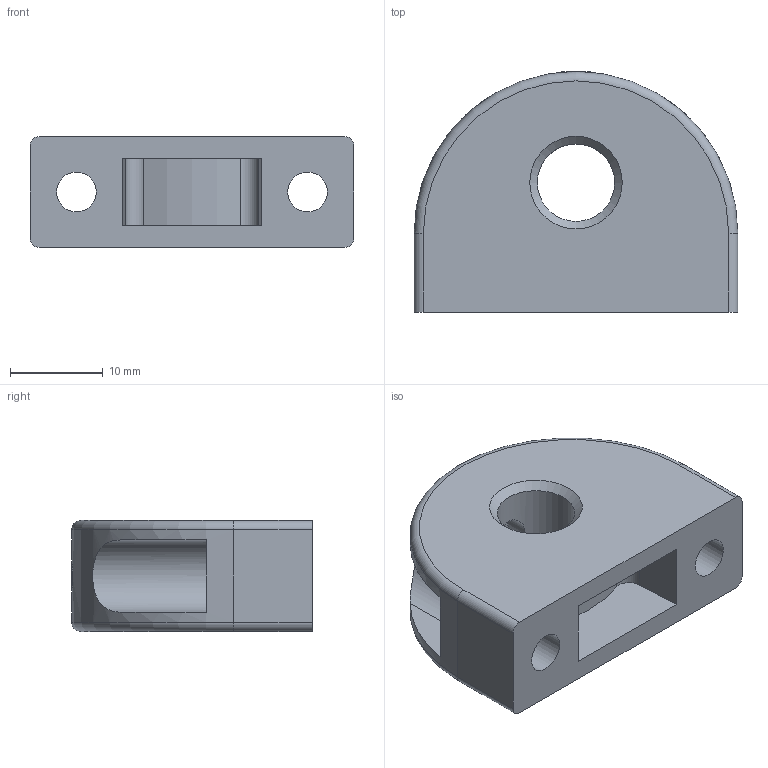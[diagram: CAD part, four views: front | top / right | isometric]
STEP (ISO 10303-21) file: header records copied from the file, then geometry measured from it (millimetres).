
FILE_DESCRIPTION( ( 'STEP AP203' ), '1' );
FILE_NAME( 'C:/Temp/Ganter_Step_05_03_2020/data/3_1/gn412_1/Mounting block GN 412.1-35-M10-1.stp', '2020-03-12T08:30:51', ( 'License CC BY-ND 4.0' ), ( 'CADENAS' ), ' ', 'PARTsolutions', ' ' );
FILE_SCHEMA( ( 'CONFIG_CONTROL_DESIGN' ) );
Length unit declared in the file: millimetre
Products named in the file (1): _Mounting block GN 412.1-35-M10-1
Bounding box: 35 x 26 x 12 mm (x, y, z)
Volume: 6216.3 mm3; surface area: 3962.2 mm2
Topology: 1 solids, 1 shells, 50 faces, 112 edges, 71 vertices
Faces by surface type: plane 27, cylinder 17, cone 4, torus 2
Full cylindrical faces by diameter (mm): 2.5 x1, 4 x2, 4.3 x2, 7.8 x2, 8.376 x1, 10.2 x1
Entity records: 1552 total; most frequent: CARTESIAN_POINT 401, DIRECTION 238, ORIENTED_EDGE 198, EDGE_CURVE 99, AXIS2_PLACEMENT_3D 92, EDGE_LOOP 76, VERTEX_POINT 71, FACE_OUTER_BOUND 59
